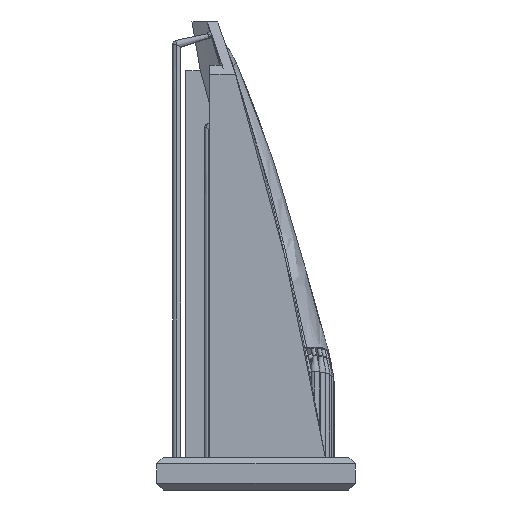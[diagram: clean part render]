
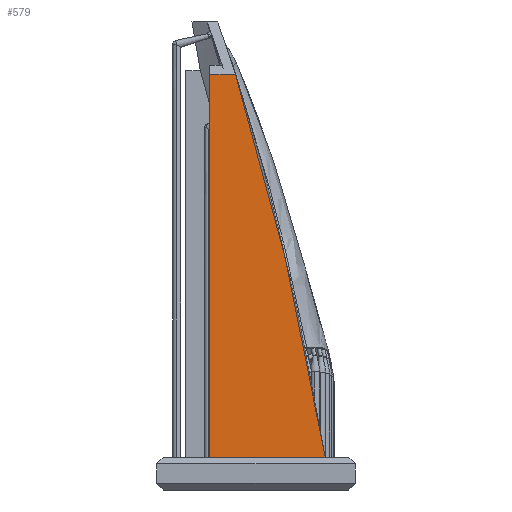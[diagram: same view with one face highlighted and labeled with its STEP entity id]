
A CAD part, front view. The second image highlights one B-rep face of the part: STEP entity #579.
In plain terms, the highlighted planar face has unit normal (0, -1, 0).
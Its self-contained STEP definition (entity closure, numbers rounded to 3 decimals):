
#579=ADVANCED_FACE('',(#1791),#22291,.T.);
#1791=FACE_OUTER_BOUND('',#3125,.T.);
#3125=EDGE_LOOP('',(#5629,#5630,#5631,#5632));
#5629=ORIENTED_EDGE('',*,*,#12511,.T.);
#5630=ORIENTED_EDGE('',*,*,#12033,.F.);
#5631=ORIENTED_EDGE('',*,*,#12023,.F.);
#5632=ORIENTED_EDGE('',*,*,#12038,.T.);
#12023=EDGE_CURVE('',#19086,#19087,#17481,.T.);
#12033=EDGE_CURVE('',#19087,#19437,#17491,.T.);
#12038=EDGE_CURVE('',#19086,#19438,#17496,.T.);
#12511=EDGE_CURVE('',#19438,#19437,#17728,.T.);
#17481=B_SPLINE_CURVE_WITH_KNOTS('',1,(#44346,#44347),.UNSPECIFIED.,.F.,
 .F.,(2,2),(-7.465,-5.89),.UNSPECIFIED.);
#17491=B_SPLINE_CURVE_WITH_KNOTS('',3,(#44604,#44605,#44606,#44607,#44608,
#44609,#44610),.UNSPECIFIED.,.F.,.F.,(4,3,4),(4.013,13.407,
28.075),.UNSPECIFIED.);
#17496=B_SPLINE_CURVE_WITH_KNOTS('',3,(#44626,#44627,#44628,#44629),
 .UNSPECIFIED.,.F.,.F.,(4,4),(0.,23.895),.UNSPECIFIED.);
#17728=B_SPLINE_CURVE_WITH_KNOTS('',1,(#48020,#48021),.UNSPECIFIED.,.F.,
 .F.,(2,2),(-5.145,-1.063),.UNSPECIFIED.);
#19086=VERTEX_POINT('',#39692);
#19087=VERTEX_POINT('',#39693);
#19437=VERTEX_POINT('',#40043);
#19438=VERTEX_POINT('',#40044);
#22291=PLANE('',#22500);
#22500=AXIS2_PLACEMENT_3D('',#30157,#22927,$);
#22927=DIRECTION('',(0.,-1.,0.));
#30157=CARTESIAN_POINT('',(-0.954,-30.45,-1.));
#39692=CARTESIAN_POINT('',(-8.505,-30.45,25.418));
#39693=CARTESIAN_POINT('',(-6.93,-30.45,25.418));
#40043=CARTESIAN_POINT('',(-1.44,-30.45,2.));
#40044=CARTESIAN_POINT('',(-8.505,-30.45,2.));
#44346=CARTESIAN_POINT('',(-8.505,-30.45,25.418));
#44347=CARTESIAN_POINT('',(-6.93,-30.45,25.418));
#44604=CARTESIAN_POINT('',(-6.93,-30.45,25.418));
#44605=CARTESIAN_POINT('',(-5.98,-30.45,22.433));
#44606=CARTESIAN_POINT('',(-5.16,-30.45,19.405));
#44607=CARTESIAN_POINT('',(-4.414,-30.45,16.363));
#44608=CARTESIAN_POINT('',(-3.247,-30.45,11.611));
#44609=CARTESIAN_POINT('',(-2.257,-30.45,6.82));
#44610=CARTESIAN_POINT('',(-1.44,-30.45,2.));
#44626=CARTESIAN_POINT('',(-8.505,-30.45,25.418));
#44627=CARTESIAN_POINT('',(-8.505,-30.45,17.612));
#44628=CARTESIAN_POINT('',(-8.505,-30.45,9.806));
#44629=CARTESIAN_POINT('',(-8.505,-30.45,2.));
#48020=CARTESIAN_POINT('',(-8.505,-30.45,2.));
#48021=CARTESIAN_POINT('',(-1.44,-30.45,2.));
